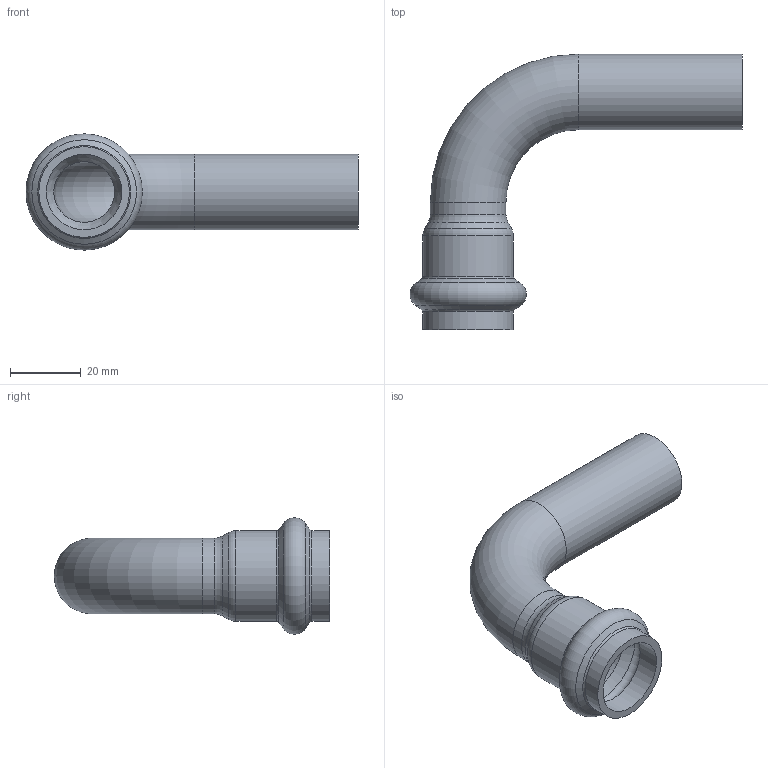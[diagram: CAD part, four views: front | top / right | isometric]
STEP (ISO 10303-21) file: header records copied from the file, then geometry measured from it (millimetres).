
FILE_DESCRIPTION(/* description */ ('VIC 90 DEG ST ELBOW STYLE P562 (P X T)','CAx-IF Rec.Pracs.---Representation and Presentation of Product Manufacturing Information (PMI)---4.0---2014-10-13'),/* implementation_level */ '2;1');
FILE_NAME(/* name */ 'C:\Users\kkamble\AppData\Roaming\Autodesk\ApplicationPlugins\Back Up\Victaulic_SS-Vic-Press-TP 316_Elbow Street 90 Deg_Style P562 (VPxPE)\Victaulic_SS-Vic-Press-TP 316_Elbow Street 90 Deg_Style P562 (VPxPE)_0.5 (15).stp',/* time_stamp */ '2020-08-14T14:07:13+06:00',/* author */ ('AAyare'),/* organization */ ('Victaulic'),/* preprocessor_version */ 'ST-DEVELOPER v17.2',/* originating_system */ 'Autodesk Inventor 2019',/* authorisation */ '');
FILE_SCHEMA (('AP242_MANAGED_MODEL_BASED_3D_ENGINEERING_MIM_LF { 1 0 10303 442 1 1 4 }'));
Length unit declared in the file: inch
Products named in the file (1): P562-0.5
Bounding box: 93.61 x 77.72 x 32.79 mm (x, y, z)
Volume: 18410.6 mm3; surface area: 17725.8 mm2
Topology: 1 solids, 1 shells, 24 faces, 82 edges, 60 vertices
Faces by surface type: torus 8, cylinder 8, cone 6, plane 2
Full cylindrical faces by diameter (mm): 17.12 x2, 21.336 x4, 25.552 x2
Entity records: 1098 total; most frequent: DIRECTION 226, CARTESIAN_POINT 184, ORIENTED_EDGE 164, AXIS2_PLACEMENT_3D 106, EDGE_CURVE 82, CIRCLE 68, VERTEX_POINT 60, EDGE_LOOP 26
